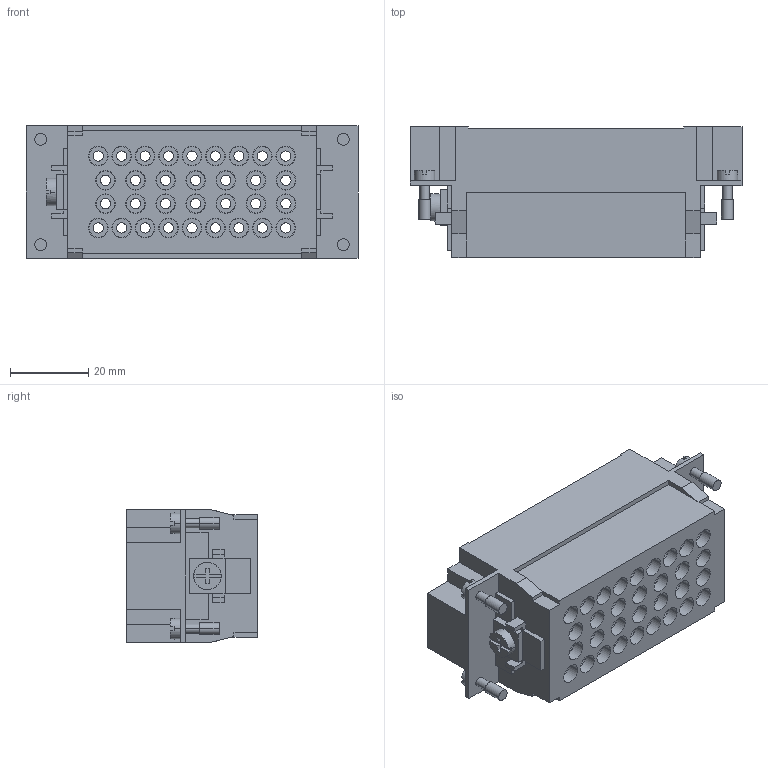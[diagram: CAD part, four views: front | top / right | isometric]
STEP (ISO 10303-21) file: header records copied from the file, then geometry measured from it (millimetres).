
FILE_DESCRIPTION (( 'STEP AP203' ), '1' );
FILE_NAME ('352238.STEP', '2025-06-26T08:46:34', ( '' ), ( '' ), 'SwSTEP 2.0', 'SolidWorks 2018', '' );
FILE_SCHEMA (( 'CONFIG_CONTROL_DESIGN' ));
Length unit declared in the file: millimetre
Products named in the file (1): 352238
Bounding box: 85 x 33.5 x 34 mm (x, y, z)
Volume: 43018.5 mm3; surface area: 28740 mm2
Topology: 1 solids, 1 shells, 589 faces, 1424 edges, 948 vertices
Faces by surface type: plane 305, cylinder 284
Entity records: 17615 total; most frequent: DIRECTION 3208, CARTESIAN_POINT 2962, ORIENTED_EDGE 2848, EDGE_CURVE 1424, AXIS2_PLACEMENT_3D 1194, VERTEX_POINT 948, LINE 820, VECTOR 820
